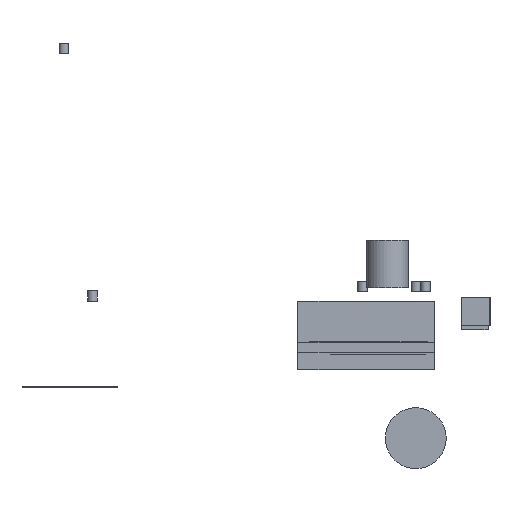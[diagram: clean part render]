
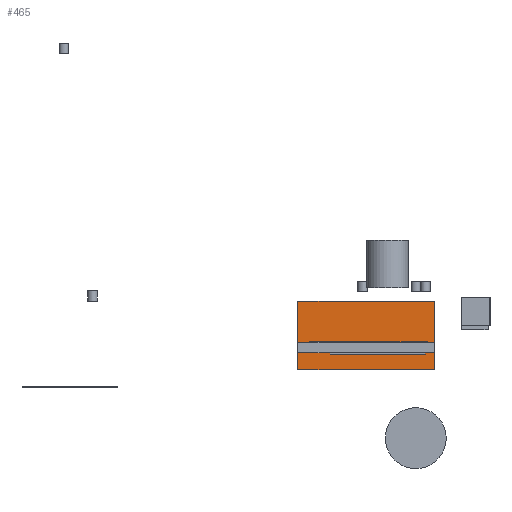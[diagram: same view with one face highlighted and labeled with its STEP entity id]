
A CAD part, left-side view. The second image highlights one B-rep face of the part: STEP entity #465.
In plain terms, the highlighted planar face has unit normal (-1, 0, 0).
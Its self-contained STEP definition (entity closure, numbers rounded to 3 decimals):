
#465 = ADVANCED_FACE('',(#466),#500,.F.);
#466 = FACE_BOUND('',#467,.F.);
#467 = EDGE_LOOP('',(#468,#478,#486,#494));
#468 = ORIENTED_EDGE('',*,*,#469,.F.);
#469 = EDGE_CURVE('',#470,#472,#474,.T.);
#470 = VERTEX_POINT('',#471);
#471 = CARTESIAN_POINT('',(5450.,-1200.,-1460.));
#472 = VERTEX_POINT('',#473);
#473 = CARTESIAN_POINT('',(5450.,-1200.,-1100.));
#474 = LINE('',#475,#476);
#475 = CARTESIAN_POINT('',(5450.,-1200.,-1460.));
#476 = VECTOR('',#477,1.);
#477 = DIRECTION('',(0.,0.,1.));
#478 = ORIENTED_EDGE('',*,*,#479,.T.);
#479 = EDGE_CURVE('',#470,#480,#482,.T.);
#480 = VERTEX_POINT('',#481);
#481 = CARTESIAN_POINT('',(5450.,-480.,-1460.));
#482 = LINE('',#483,#484);
#483 = CARTESIAN_POINT('',(5450.,-1200.,-1460.));
#484 = VECTOR('',#485,1.);
#485 = DIRECTION('',(-0.,1.,0.));
#486 = ORIENTED_EDGE('',*,*,#487,.T.);
#487 = EDGE_CURVE('',#480,#488,#490,.T.);
#488 = VERTEX_POINT('',#489);
#489 = CARTESIAN_POINT('',(5450.,-480.,-1100.));
#490 = LINE('',#491,#492);
#491 = CARTESIAN_POINT('',(5450.,-480.,-1460.));
#492 = VECTOR('',#493,1.);
#493 = DIRECTION('',(0.,0.,1.));
#494 = ORIENTED_EDGE('',*,*,#495,.F.);
#495 = EDGE_CURVE('',#472,#488,#496,.T.);
#496 = LINE('',#497,#498);
#497 = CARTESIAN_POINT('',(5450.,-1200.,-1100.));
#498 = VECTOR('',#499,1.);
#499 = DIRECTION('',(-0.,1.,0.));
#500 = PLANE('',#501);
#501 = AXIS2_PLACEMENT_3D('',#502,#503,#504);
#502 = CARTESIAN_POINT('',(5450.,-1200.,-1460.));
#503 = DIRECTION('',(1.,0.,-0.));
#504 = DIRECTION('',(0.,0.,1.));
